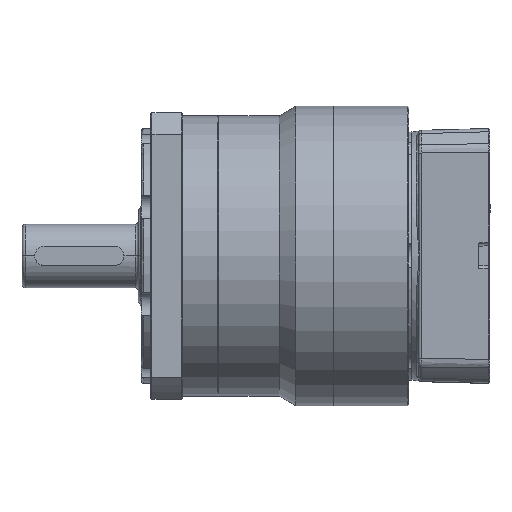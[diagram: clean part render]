
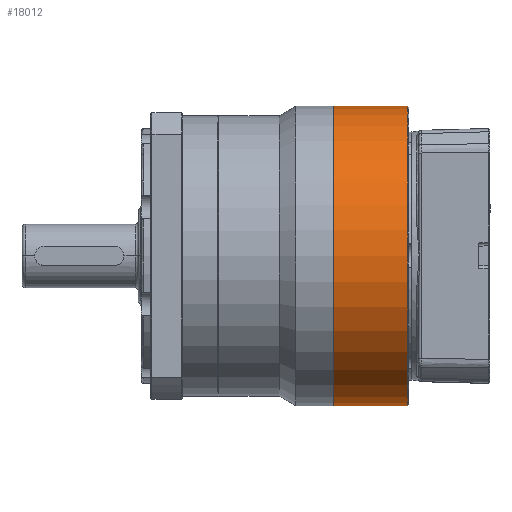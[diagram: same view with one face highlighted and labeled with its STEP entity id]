
A CAD part, top view. The second image highlights one B-rep face of the part: STEP entity #18012.
In plain terms, the highlighted cylindrical face has radius 47 mm (diameter 94 mm), a partial arc.
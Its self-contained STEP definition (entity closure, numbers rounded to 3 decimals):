
#162 = LINE ( 'NONE', #32893, #50363 ) ;
#1059 = CARTESIAN_POINT ( 'NONE',  ( 26.7, 47., 0. ) ) ;
#1265 = ORIENTED_EDGE ( 'NONE', *, *, #38111, .T. ) ;
#2336 = DIRECTION ( 'NONE',  ( 0., 0., 1. ) ) ;
#2559 = DIRECTION ( 'NONE',  ( -1., 0., 0. ) ) ;
#2771 = CARTESIAN_POINT ( 'NONE',  ( 26.7, 0., 0. ) ) ;
#6659 = EDGE_LOOP ( 'NONE', ( #50767, #1265, #24469, #54194, #54096 ) ) ;
#7243 = VERTEX_POINT ( 'NONE', #44324 ) ;
#7642 = VECTOR ( 'NONE', #14732, 1000. ) ;
#7891 = EDGE_CURVE ( 'NONE', #62714, #25498, #47540, .T. ) ;
#8654 = CARTESIAN_POINT ( 'NONE',  ( 26.7, 0., 47. ) ) ;
#9154 = AXIS2_PLACEMENT_3D ( 'NONE', #48750, #19639, #53661 ) ;
#14674 = EDGE_CURVE ( 'NONE', #62714, #60277, #19014, .T. ) ;
#14732 = DIRECTION ( 'NONE',  ( -1., 0., 0. ) ) ;
#14941 = CARTESIAN_POINT ( 'NONE',  ( 0., 0., 47. ) ) ;
#17120 = CARTESIAN_POINT ( 'NONE',  ( 26.7, 0., -47. ) ) ;
#17409 = AXIS2_PLACEMENT_3D ( 'NONE', #51405, #51115, #50689 ) ;
#18012 = ADVANCED_FACE ( 'NONE', ( #35925 ), #37177, .T. ) ;
#19014 = LINE ( 'NONE', #14941, #7642 ) ;
#19639 = DIRECTION ( 'NONE',  ( -1., 0., 0. ) ) ;
#24469 = ORIENTED_EDGE ( 'NONE', *, *, #47738, .T. ) ;
#25498 = VERTEX_POINT ( 'NONE', #1059 ) ;
#28422 = CARTESIAN_POINT ( 'NONE',  ( 3.5, 0., 0. ) ) ;
#31495 = VERTEX_POINT ( 'NONE', #17120 ) ;
#32893 = CARTESIAN_POINT ( 'NONE',  ( 0., 0., -47. ) ) ;
#33361 = DIRECTION ( 'NONE',  ( 0., 0., 1. ) ) ;
#33992 = EDGE_CURVE ( 'NONE', #25498, #31495, #47443, .T. ) ;
#35925 = FACE_OUTER_BOUND ( 'NONE', #6659, .T. ) ;
#37177 = CYLINDRICAL_SURFACE ( 'NONE', #17409, 47. ) ;
#38111 = EDGE_CURVE ( 'NONE', #31495, #7243, #162, .T. ) ;
#42940 = DIRECTION ( 'NONE',  ( -1., 0., 0. ) ) ;
#43676 = AXIS2_PLACEMENT_3D ( 'NONE', #2771, #2559, #2336 ) ;
#44324 = CARTESIAN_POINT ( 'NONE',  ( 3.5, 0., -47. ) ) ;
#47443 = CIRCLE ( 'NONE', #9154, 47. ) ;
#47540 = CIRCLE ( 'NONE', #43676, 47. ) ;
#47738 = EDGE_CURVE ( 'NONE', #7243, #60277, #51440, .T. ) ;
#48750 = CARTESIAN_POINT ( 'NONE',  ( 26.7, 0., 0. ) ) ;
#50363 = VECTOR ( 'NONE', #42940, 1000. ) ;
#50689 = DIRECTION ( 'NONE',  ( 0., 0., 1. ) ) ;
#50767 = ORIENTED_EDGE ( 'NONE', *, *, #33992, .T. ) ;
#51115 = DIRECTION ( 'NONE',  ( -1., 0., 0. ) ) ;
#51405 = CARTESIAN_POINT ( 'NONE',  ( 0., 0., 0. ) ) ;
#51440 = CIRCLE ( 'NONE', #58618, 47. ) ;
#53661 = DIRECTION ( 'NONE',  ( 0., 0., 1. ) ) ;
#54096 = ORIENTED_EDGE ( 'NONE', *, *, #7891, .T. ) ;
#54194 = ORIENTED_EDGE ( 'NONE', *, *, #14674, .F. ) ;
#58072 = CARTESIAN_POINT ( 'NONE',  ( 3.5, 0., 47. ) ) ;
#58618 = AXIS2_PLACEMENT_3D ( 'NONE', #28422, #62350, #33361 ) ;
#60277 = VERTEX_POINT ( 'NONE', #58072 ) ;
#62350 = DIRECTION ( 'NONE',  ( 1., 0., 0. ) ) ;
#62714 = VERTEX_POINT ( 'NONE', #8654 ) ;
